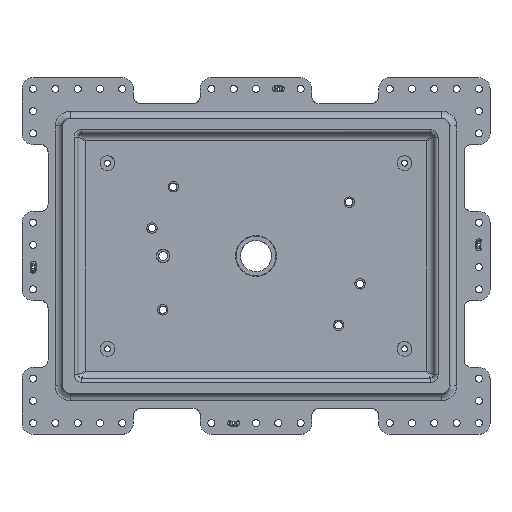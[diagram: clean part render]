
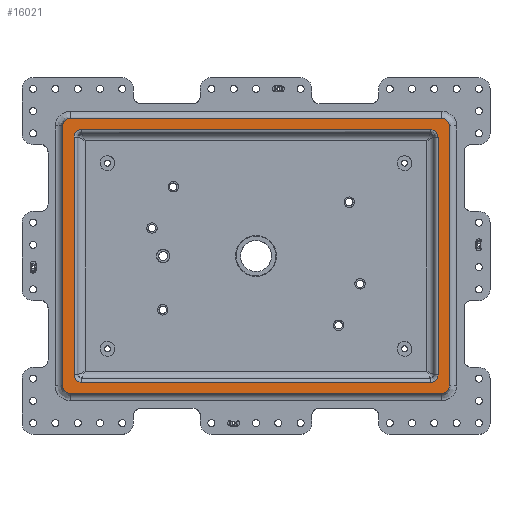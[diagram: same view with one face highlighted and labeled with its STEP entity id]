
A CAD part, top view. The second image highlights one B-rep face of the part: STEP entity #16021.
In plain terms, the highlighted planar face has unit normal (0, 0, 1).
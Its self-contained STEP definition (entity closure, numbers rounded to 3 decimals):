
#6549=CARTESIAN_POINT('Vertex',(-250.,-185.,79.)) ;
#6552=CARTESIAN_POINT('Axis2P3D Location',(-250.,-175.,79.)) ;
#6556=CARTESIAN_POINT('Vertex',(-260.,-175.,79.)) ;
#6576=CARTESIAN_POINT('Line Origine',(-260.,0.,79.)) ;
#6580=CARTESIAN_POINT('Vertex',(-260.,175.,79.)) ;
#6780=CARTESIAN_POINT('Axis2P3D Location',(-250.,175.,79.)) ;
#6784=CARTESIAN_POINT('Vertex',(-250.,185.,79.)) ;
#6804=CARTESIAN_POINT('Line Origine',(0.,185.,79.)) ;
#6808=CARTESIAN_POINT('Vertex',(250.,185.,79.)) ;
#7098=CARTESIAN_POINT('Axis2P3D Location',(250.,175.,79.)) ;
#7102=CARTESIAN_POINT('Vertex',(260.,175.,79.)) ;
#7122=CARTESIAN_POINT('Line Origine',(260.,0.,79.)) ;
#7126=CARTESIAN_POINT('Vertex',(260.,-175.,79.)) ;
#7326=CARTESIAN_POINT('Axis2P3D Location',(250.,-175.,79.)) ;
#7330=CARTESIAN_POINT('Vertex',(250.,-185.,79.)) ;
#7350=CARTESIAN_POINT('Line Origine',(0.,-185.,79.)) ;
#11567=CARTESIAN_POINT('Line Origine',(-520.04,-170.,79.)) ;
#11571=CARTESIAN_POINT('Vertex',(235.,-170.,79.)) ;
#11573=CARTESIAN_POINT('Vertex',(-235.,-170.,79.)) ;
#11640=CARTESIAN_POINT('Control Point',(-235.,-170.,79.)) ;
#11641=CARTESIAN_POINT('Control Point',(-238.141,-169.999,79.)) ;
#11642=CARTESIAN_POINT('Control Point',(-241.286,-168.771,79.)) ;
#11643=CARTESIAN_POINT('Control Point',(-243.771,-166.286,79.)) ;
#11644=CARTESIAN_POINT('Control Point',(-244.999,-163.141,79.)) ;
#11645=CARTESIAN_POINT('Control Point',(-245.,-160.,79.)) ;
#11646=CARTESIAN_POINT('Vertex',(-245.,-160.,79.)) ;
#11679=CARTESIAN_POINT('Line Origine',(-245.,370.04,79.)) ;
#11683=CARTESIAN_POINT('Vertex',(-245.,160.,79.)) ;
#11743=CARTESIAN_POINT('Control Point',(-245.,160.,79.)) ;
#11744=CARTESIAN_POINT('Control Point',(-244.999,163.141,79.)) ;
#11745=CARTESIAN_POINT('Control Point',(-243.771,166.286,79.)) ;
#11746=CARTESIAN_POINT('Control Point',(-241.286,168.771,79.)) ;
#11747=CARTESIAN_POINT('Control Point',(-238.141,169.999,79.)) ;
#11748=CARTESIAN_POINT('Control Point',(-235.,170.,79.)) ;
#11749=CARTESIAN_POINT('Vertex',(-235.,170.,79.)) ;
#11782=CARTESIAN_POINT('Line Origine',(520.04,170.,79.)) ;
#11786=CARTESIAN_POINT('Vertex',(235.,170.,79.)) ;
#11846=CARTESIAN_POINT('Control Point',(235.,170.,79.)) ;
#11847=CARTESIAN_POINT('Control Point',(238.141,169.999,79.)) ;
#11848=CARTESIAN_POINT('Control Point',(241.286,168.771,79.)) ;
#11849=CARTESIAN_POINT('Control Point',(243.771,166.286,79.)) ;
#11850=CARTESIAN_POINT('Control Point',(244.999,163.141,79.)) ;
#11851=CARTESIAN_POINT('Control Point',(245.,160.,79.)) ;
#11852=CARTESIAN_POINT('Vertex',(245.,160.,79.)) ;
#11885=CARTESIAN_POINT('Line Origine',(245.,-370.04,79.)) ;
#11889=CARTESIAN_POINT('Vertex',(245.,-160.,79.)) ;
#11949=CARTESIAN_POINT('Control Point',(245.,-160.,79.)) ;
#11950=CARTESIAN_POINT('Control Point',(244.999,-163.141,79.)) ;
#11951=CARTESIAN_POINT('Control Point',(243.771,-166.286,79.)) ;
#11952=CARTESIAN_POINT('Control Point',(241.286,-168.771,79.)) ;
#11953=CARTESIAN_POINT('Control Point',(238.141,-169.999,79.)) ;
#11954=CARTESIAN_POINT('Control Point',(235.,-170.,79.)) ;
#15996=CARTESIAN_POINT('Axis2P3D Location',(-315.,-240.,79.)) ;
#6553=DIRECTION('Axis2P3D Direction',(0.,0.,1.)) ;
#6577=DIRECTION('Vector Direction',(0.,1.,0.)) ;
#6781=DIRECTION('Axis2P3D Direction',(0.,0.,1.)) ;
#6805=DIRECTION('Vector Direction',(1.,0.,0.)) ;
#7099=DIRECTION('Axis2P3D Direction',(0.,-0.,1.)) ;
#7123=DIRECTION('Vector Direction',(0.,1.,0.)) ;
#7327=DIRECTION('Axis2P3D Direction',(-0.,0.,1.)) ;
#7351=DIRECTION('Vector Direction',(1.,0.,0.)) ;
#11568=DIRECTION('Vector Direction',(1.,0.,0.)) ;
#11680=DIRECTION('Vector Direction',(0.,-1.,0.)) ;
#11783=DIRECTION('Vector Direction',(-1.,0.,0.)) ;
#11886=DIRECTION('Vector Direction',(0.,1.,0.)) ;
#15997=DIRECTION('Axis2P3D Direction',(0.,-0.,1.)) ;
#15998=DIRECTION('Axis2P3D XDirection',(0.,1.,0.)) ;
#6554=AXIS2_PLACEMENT_3D('Circle Axis2P3D',#6552,#6553,$) ;
#6782=AXIS2_PLACEMENT_3D('Circle Axis2P3D',#6780,#6781,$) ;
#7100=AXIS2_PLACEMENT_3D('Circle Axis2P3D',#7098,#7099,$) ;
#7328=AXIS2_PLACEMENT_3D('Circle Axis2P3D',#7326,#7327,$) ;
#15999=AXIS2_PLACEMENT_3D('Plane Axis2P3D',#15996,#15997,#15998) ;
#16002=ORIENTED_EDGE('',*,*,#7332,.T.) ;
#16003=ORIENTED_EDGE('',*,*,#7128,.T.) ;
#16004=ORIENTED_EDGE('',*,*,#7104,.T.) ;
#16005=ORIENTED_EDGE('',*,*,#6810,.F.) ;
#16006=ORIENTED_EDGE('',*,*,#6786,.T.) ;
#16007=ORIENTED_EDGE('',*,*,#6582,.F.) ;
#16008=ORIENTED_EDGE('',*,*,#6558,.T.) ;
#16009=ORIENTED_EDGE('',*,*,#7354,.T.) ;
#16012=ORIENTED_EDGE('',*,*,#11575,.T.) ;
#16013=ORIENTED_EDGE('',*,*,#11648,.T.) ;
#16014=ORIENTED_EDGE('',*,*,#11685,.T.) ;
#16015=ORIENTED_EDGE('',*,*,#11751,.T.) ;
#16016=ORIENTED_EDGE('',*,*,#11788,.T.) ;
#16017=ORIENTED_EDGE('',*,*,#11854,.T.) ;
#16018=ORIENTED_EDGE('',*,*,#11891,.T.) ;
#16019=ORIENTED_EDGE('',*,*,#11955,.T.) ;
#16020=FACE_BOUND('',#16011,.T.) ;
#6578=VECTOR('Line Direction',#6577,1.) ;
#6806=VECTOR('Line Direction',#6805,1.) ;
#7124=VECTOR('Line Direction',#7123,1.) ;
#7352=VECTOR('Line Direction',#7351,1.) ;
#11569=VECTOR('Line Direction',#11568,1.) ;
#11681=VECTOR('Line Direction',#11680,1.) ;
#11784=VECTOR('Line Direction',#11783,1.) ;
#11887=VECTOR('Line Direction',#11886,1.) ;
#16021=ADVANCED_FACE('B80111057306400000000_001_EGT022_H-GRUNDRAHMEN_450X600_SW80',(#16010,#16020),#16000,.T.) ;
#11639=B_SPLINE_CURVE_WITH_KNOTS('',5,(#11640,#11641,#11642,#11643,#11644,#11645),.UNSPECIFIED.,.F.,.U.,(6,6),(0.,11.281),.UNSPECIFIED.) ;
#11742=B_SPLINE_CURVE_WITH_KNOTS('',5,(#11743,#11744,#11745,#11746,#11747,#11748),.UNSPECIFIED.,.F.,.U.,(6,6),(0.,11.281),.UNSPECIFIED.) ;
#11845=B_SPLINE_CURVE_WITH_KNOTS('',5,(#11846,#11847,#11848,#11849,#11850,#11851),.UNSPECIFIED.,.F.,.U.,(6,6),(0.,11.281),.UNSPECIFIED.) ;
#11948=B_SPLINE_CURVE_WITH_KNOTS('',5,(#11949,#11950,#11951,#11952,#11953,#11954),.UNSPECIFIED.,.F.,.U.,(6,6),(0.,11.281),.UNSPECIFIED.) ;
#6555=CIRCLE('generated circle',#6554,10.) ;
#6783=CIRCLE('generated circle',#6782,10.) ;
#7101=CIRCLE('generated circle',#7100,10.) ;
#7329=CIRCLE('generated circle',#7328,10.) ;
#6558=EDGE_CURVE('',#6557,#6550,#6555,.T.) ;
#6582=EDGE_CURVE('',#6557,#6581,#6579,.T.) ;
#6786=EDGE_CURVE('',#6785,#6581,#6783,.T.) ;
#6810=EDGE_CURVE('',#6785,#6809,#6807,.T.) ;
#7104=EDGE_CURVE('',#7103,#6809,#7101,.T.) ;
#7128=EDGE_CURVE('',#7127,#7103,#7125,.T.) ;
#7332=EDGE_CURVE('',#7331,#7127,#7329,.T.) ;
#7354=EDGE_CURVE('',#6550,#7331,#7353,.T.) ;
#11575=EDGE_CURVE('',#11572,#11574,#11570,.F.) ;
#11648=EDGE_CURVE('',#11574,#11647,#11639,.T.) ;
#11685=EDGE_CURVE('',#11647,#11684,#11682,.F.) ;
#11751=EDGE_CURVE('',#11684,#11750,#11742,.T.) ;
#11788=EDGE_CURVE('',#11750,#11787,#11785,.F.) ;
#11854=EDGE_CURVE('',#11787,#11853,#11845,.T.) ;
#11891=EDGE_CURVE('',#11853,#11890,#11888,.F.) ;
#11955=EDGE_CURVE('',#11890,#11572,#11948,.T.) ;
#16001=EDGE_LOOP('',(#16002,#16003,#16004,#16005,#16006,#16007,#16008,#16009)) ;
#16011=EDGE_LOOP('',(#16012,#16013,#16014,#16015,#16016,#16017,#16018,#16019)) ;
#16010=FACE_OUTER_BOUND('',#16001,.T.) ;
#6579=LINE('Line',#6576,#6578) ;
#6807=LINE('Line',#6804,#6806) ;
#7125=LINE('Line',#7122,#7124) ;
#7353=LINE('Line',#7350,#7352) ;
#11570=LINE('Line',#11567,#11569) ;
#11682=LINE('Line',#11679,#11681) ;
#11785=LINE('Line',#11782,#11784) ;
#11888=LINE('Line',#11885,#11887) ;
#16000=PLANE('',#15999) ;
#6550=VERTEX_POINT('',#6549) ;
#6557=VERTEX_POINT('',#6556) ;
#6581=VERTEX_POINT('',#6580) ;
#6785=VERTEX_POINT('',#6784) ;
#6809=VERTEX_POINT('',#6808) ;
#7103=VERTEX_POINT('',#7102) ;
#7127=VERTEX_POINT('',#7126) ;
#7331=VERTEX_POINT('',#7330) ;
#11572=VERTEX_POINT('',#11571) ;
#11574=VERTEX_POINT('',#11573) ;
#11647=VERTEX_POINT('',#11646) ;
#11684=VERTEX_POINT('',#11683) ;
#11750=VERTEX_POINT('',#11749) ;
#11787=VERTEX_POINT('',#11786) ;
#11853=VERTEX_POINT('',#11852) ;
#11890=VERTEX_POINT('',#11889) ;
